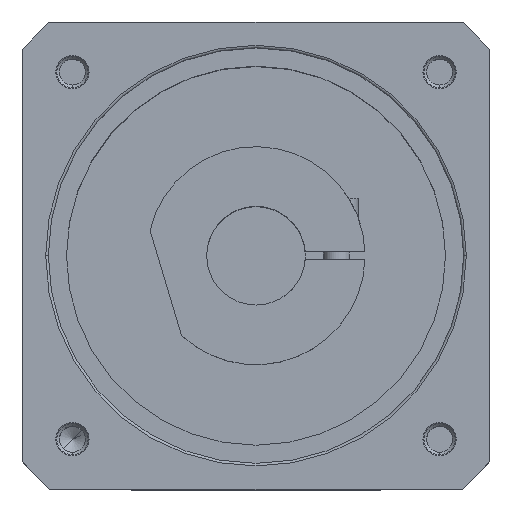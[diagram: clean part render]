
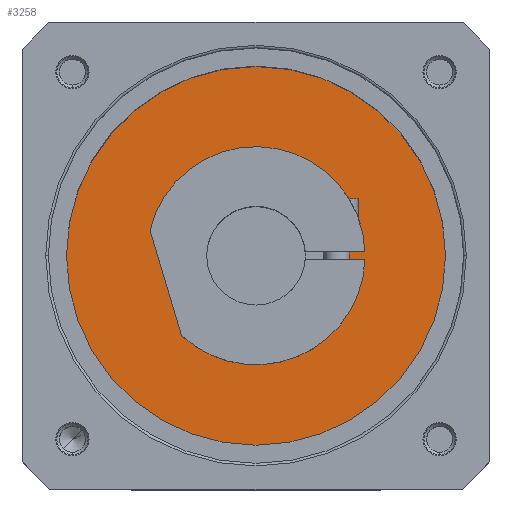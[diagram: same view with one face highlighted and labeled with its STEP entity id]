
A CAD part, top view. The second image highlights one B-rep face of the part: STEP entity #3258.
In plain terms, the highlighted planar face has unit normal (0, 0, 1).
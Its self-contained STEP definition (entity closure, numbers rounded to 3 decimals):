
#557=CARTESIAN_POINT('',(0.,0.,56.));
#558=DIRECTION('',(0.,0.,1.));
#559=DIRECTION('',(0.,-1.,0.));
#560=AXIS2_PLACEMENT_3D('',#557,#558,#559);
#562=CARTESIAN_POINT('',(0.,0.,56.));
#563=DIRECTION('',(0.,0.,1.));
#564=DIRECTION('',(0.,1.,0.));
#565=AXIS2_PLACEMENT_3D('',#562,#563,#564);
#567=DIRECTION('',(0.,-1.,0.));
#568=VECTOR('',#567,6.349);
#569=CARTESIAN_POINT('',(-29.355,41.704,56.));
#570=LINE('',#569,#568);
#571=CARTESIAN_POINT('',(0.,0.,56.));
#572=DIRECTION('',(0.,0.,1.));
#573=DIRECTION('',(-0.471,0.882,0.));
#574=AXIS2_PLACEMENT_3D('',#571,#572,#573);
#576=DIRECTION('',(-1.,0.,0.));
#577=VECTOR('',#576,48.);
#578=CARTESIAN_POINT('',(24.,45.,56.));
#579=LINE('',#578,#577);
#580=CARTESIAN_POINT('',(0.,0.,56.));
#581=DIRECTION('',(0.,0.,1.));
#582=DIRECTION('',(0.576,0.818,0.));
#583=AXIS2_PLACEMENT_3D('',#580,#581,#582);
#585=DIRECTION('',(0.,-1.,0.));
#586=VECTOR('',#585,6.349);
#587=CARTESIAN_POINT('',(29.355,41.704,56.));
#588=LINE('',#587,#586);
#589=CARTESIAN_POINT('',(35.355,29.355,56.));
#590=CARTESIAN_POINT('',(34.308,29.355,56.));
#591=CARTESIAN_POINT('',(32.215,29.916,56.));
#592=CARTESIAN_POINT('',(29.916,32.215,56.));
#593=CARTESIAN_POINT('',(29.355,34.308,56.));
#594=CARTESIAN_POINT('',(29.355,35.355,56.));
#596=DIRECTION('',(-1.,0.,0.));
#597=VECTOR('',#596,6.349);
#598=CARTESIAN_POINT('',(41.704,29.355,56.));
#599=LINE('',#598,#597);
#600=CARTESIAN_POINT('',(0.,0.,56.));
#601=DIRECTION('',(0.,0.,1.));
#602=DIRECTION('',(0.882,0.471,0.));
#603=AXIS2_PLACEMENT_3D('',#600,#601,#602);
#605=DIRECTION('',(0.,1.,0.));
#606=VECTOR('',#605,48.);
#607=CARTESIAN_POINT('',(45.,-24.,56.));
#608=LINE('',#607,#606);
#609=CARTESIAN_POINT('',(0.,0.,56.));
#610=DIRECTION('',(0.,0.,1.));
#611=DIRECTION('',(0.818,-0.576,0.));
#612=AXIS2_PLACEMENT_3D('',#609,#610,#611);
#614=DIRECTION('',(-1.,0.,0.));
#615=VECTOR('',#614,6.349);
#616=CARTESIAN_POINT('',(41.704,-29.355,56.));
#617=LINE('',#616,#615);
#618=CARTESIAN_POINT('',(29.355,-35.355,56.));
#619=CARTESIAN_POINT('',(29.355,-34.308,56.));
#620=CARTESIAN_POINT('',(29.916,-32.215,56.));
#621=CARTESIAN_POINT('',(32.215,-29.916,56.));
#622=CARTESIAN_POINT('',(34.308,-29.355,56.));
#623=CARTESIAN_POINT('',(35.355,-29.355,56.));
#625=DIRECTION('',(0.,1.,0.));
#626=VECTOR('',#625,6.349);
#627=CARTESIAN_POINT('',(29.355,-41.704,56.));
#628=LINE('',#627,#626);
#629=CARTESIAN_POINT('',(0.,0.,56.));
#630=DIRECTION('',(0.,0.,1.));
#631=DIRECTION('',(0.471,-0.882,0.));
#632=AXIS2_PLACEMENT_3D('',#629,#630,#631);
#634=DIRECTION('',(1.,0.,0.));
#635=VECTOR('',#634,48.);
#636=CARTESIAN_POINT('',(-24.,-45.,56.));
#637=LINE('',#636,#635);
#638=CARTESIAN_POINT('',(0.,0.,56.));
#639=DIRECTION('',(0.,0.,1.));
#640=DIRECTION('',(-0.576,-0.818,0.));
#641=AXIS2_PLACEMENT_3D('',#638,#639,#640);
#643=DIRECTION('',(0.,1.,0.));
#644=VECTOR('',#643,6.349);
#645=CARTESIAN_POINT('',(-29.355,-41.704,56.));
#646=LINE('',#645,#644);
#647=CARTESIAN_POINT('',(-35.355,-29.355,56.));
#648=CARTESIAN_POINT('',(-34.308,-29.355,56.));
#649=CARTESIAN_POINT('',(-32.215,-29.916,56.));
#650=CARTESIAN_POINT('',(-29.916,-32.215,56.));
#651=CARTESIAN_POINT('',(-29.355,-34.308,56.));
#652=CARTESIAN_POINT('',(-29.355,-35.355,56.));
#654=DIRECTION('',(1.,0.,0.));
#655=VECTOR('',#654,6.349);
#656=CARTESIAN_POINT('',(-41.704,-29.355,56.));
#657=LINE('',#656,#655);
#658=CARTESIAN_POINT('',(0.,0.,56.));
#659=DIRECTION('',(0.,0.,1.));
#660=DIRECTION('',(-0.882,-0.471,0.));
#661=AXIS2_PLACEMENT_3D('',#658,#659,#660);
#663=DIRECTION('',(0.,-1.,0.));
#664=VECTOR('',#663,48.);
#665=CARTESIAN_POINT('',(-45.,24.,56.));
#666=LINE('',#665,#664);
#667=CARTESIAN_POINT('',(0.,0.,56.));
#668=DIRECTION('',(0.,0.,1.));
#669=DIRECTION('',(-0.818,0.576,0.));
#670=AXIS2_PLACEMENT_3D('',#667,#668,#669);
#672=DIRECTION('',(1.,0.,0.));
#673=VECTOR('',#672,6.349);
#674=CARTESIAN_POINT('',(-41.704,29.355,56.));
#675=LINE('',#674,#673);
#676=CARTESIAN_POINT('',(-29.355,35.355,56.));
#677=CARTESIAN_POINT('',(-29.355,34.308,56.));
#678=CARTESIAN_POINT('',(-29.916,32.215,56.));
#679=CARTESIAN_POINT('',(-32.215,29.916,56.));
#680=CARTESIAN_POINT('',(-34.308,29.355,56.));
#681=CARTESIAN_POINT('',(-35.355,29.355,56.));
#2240=CARTESIAN_POINT('',(-45.,24.,56.));
#2241=CARTESIAN_POINT('',(-45.,-24.,56.));
#2242=VERTEX_POINT('',#2240);
#2243=VERTEX_POINT('',#2241);
#2244=CARTESIAN_POINT('',(-24.,-45.,56.));
#2245=CARTESIAN_POINT('',(24.,-45.,56.));
#2246=VERTEX_POINT('',#2244);
#2247=VERTEX_POINT('',#2245);
#2248=CARTESIAN_POINT('',(45.,-24.,56.));
#2249=CARTESIAN_POINT('',(45.,24.,56.));
#2250=VERTEX_POINT('',#2248);
#2251=VERTEX_POINT('',#2249);
#2252=CARTESIAN_POINT('',(24.,45.,56.));
#2253=CARTESIAN_POINT('',(-24.,45.,56.));
#2254=VERTEX_POINT('',#2252);
#2255=VERTEX_POINT('',#2253);
#2304=CARTESIAN_POINT('',(0.,-14.,56.));
#2305=CARTESIAN_POINT('',(0.,14.,56.));
#2306=VERTEX_POINT('',#2304);
#2307=VERTEX_POINT('',#2305);
#2380=CARTESIAN_POINT('',(41.704,29.355,56.));
#2381=CARTESIAN_POINT('',(35.355,29.355,56.));
#2382=VERTEX_POINT('',#2380);
#2383=VERTEX_POINT('',#2381);
#2384=CARTESIAN_POINT('',(29.355,41.704,56.));
#2385=CARTESIAN_POINT('',(29.355,35.355,56.));
#2386=VERTEX_POINT('',#2384);
#2387=VERTEX_POINT('',#2385);
#2414=CARTESIAN_POINT('',(29.355,-41.704,56.));
#2415=CARTESIAN_POINT('',(29.355,-35.355,56.));
#2416=VERTEX_POINT('',#2414);
#2417=VERTEX_POINT('',#2415);
#2418=CARTESIAN_POINT('',(41.704,-29.355,56.));
#2419=CARTESIAN_POINT('',(35.355,-29.355,56.));
#2420=VERTEX_POINT('',#2418);
#2421=VERTEX_POINT('',#2419);
#2448=CARTESIAN_POINT('',(-41.704,-29.355,56.));
#2449=CARTESIAN_POINT('',(-35.355,-29.355,56.));
#2450=VERTEX_POINT('',#2448);
#2451=VERTEX_POINT('',#2449);
#2452=CARTESIAN_POINT('',(-29.355,-41.704,56.));
#2453=CARTESIAN_POINT('',(-29.355,-35.355,56.));
#2454=VERTEX_POINT('',#2452);
#2455=VERTEX_POINT('',#2453);
#2482=CARTESIAN_POINT('',(-29.355,41.704,56.));
#2483=CARTESIAN_POINT('',(-29.355,35.355,56.));
#2484=VERTEX_POINT('',#2482);
#2485=VERTEX_POINT('',#2483);
#2486=CARTESIAN_POINT('',(-41.704,29.355,56.));
#2487=CARTESIAN_POINT('',(-35.355,29.355,56.));
#2488=VERTEX_POINT('',#2486);
#2489=VERTEX_POINT('',#2487);
#3201=CARTESIAN_POINT('',(38.,38.,56.));
#3202=DIRECTION('',(0.,0.,1.));
#3203=DIRECTION('',(1.,0.,0.));
#3204=AXIS2_PLACEMENT_3D('',#3201,#3202,#3203);
#3205=PLANE('',#3204);
#3207=ORIENTED_EDGE('',*,*,#3206,.F.);
#3209=ORIENTED_EDGE('',*,*,#3208,.F.);
#3210=ORIENTED_EDGE('',*,*,#3194,.F.);
#3211=ORIENTED_EDGE('',*,*,#3091,.F.);
#3213=ORIENTED_EDGE('',*,*,#3212,.T.);
#3215=ORIENTED_EDGE('',*,*,#3214,.F.);
#3217=ORIENTED_EDGE('',*,*,#3216,.F.);
#3218=ORIENTED_EDGE('',*,*,#3071,.F.);
#3219=ORIENTED_EDGE('',*,*,#3108,.F.);
#3221=ORIENTED_EDGE('',*,*,#3220,.F.);
#3223=ORIENTED_EDGE('',*,*,#3222,.T.);
#3225=ORIENTED_EDGE('',*,*,#3224,.F.);
#3227=ORIENTED_EDGE('',*,*,#3226,.F.);
#3229=ORIENTED_EDGE('',*,*,#3228,.F.);
#3231=ORIENTED_EDGE('',*,*,#3230,.F.);
#3233=ORIENTED_EDGE('',*,*,#3232,.F.);
#3235=ORIENTED_EDGE('',*,*,#3234,.T.);
#3237=ORIENTED_EDGE('',*,*,#3236,.F.);
#3239=ORIENTED_EDGE('',*,*,#3238,.F.);
#3241=ORIENTED_EDGE('',*,*,#3240,.F.);
#3243=ORIENTED_EDGE('',*,*,#3242,.F.);
#3245=ORIENTED_EDGE('',*,*,#3244,.F.);
#3247=ORIENTED_EDGE('',*,*,#3246,.T.);
#3249=ORIENTED_EDGE('',*,*,#3248,.F.);
#3250=EDGE_LOOP('',(#3207,#3209,#3210,#3211,#3213,#3215,#3217,#3218,#3219,#3221,
#3223,#3225,#3227,#3229,#3231,#3233,#3235,#3237,#3239,#3241,#3243,#3245,#3247,
#3249));
#3251=FACE_OUTER_BOUND('',#3250,.F.);
#3253=ORIENTED_EDGE('',*,*,#3252,.T.);
#3255=ORIENTED_EDGE('',*,*,#3254,.T.);
#3256=EDGE_LOOP('',(#3253,#3255));
#3257=FACE_BOUND('',#3256,.F.);
#3258=ADVANCED_FACE('',(#3251,#3257),#3205,.T.);
#561=CIRCLE('',#560,14.);
#566=CIRCLE('',#565,14.);
#575=CIRCLE('',#574,51.);
#584=CIRCLE('',#583,51.);
#595=B_SPLINE_CURVE_WITH_KNOTS('',3,(#589,#590,#591,#592,#593,#594),
.UNSPECIFIED.,.F.,.F.,(4,1,1,4),(0.,0.333,0.667,1.),
.UNSPECIFIED.);
#604=CIRCLE('',#603,51.);
#613=CIRCLE('',#612,51.);
#624=B_SPLINE_CURVE_WITH_KNOTS('',3,(#618,#619,#620,#621,#622,#623),
.UNSPECIFIED.,.F.,.F.,(4,1,1,4),(0.,0.333,0.667,1.),
.UNSPECIFIED.);
#633=CIRCLE('',#632,51.);
#642=CIRCLE('',#641,51.);
#653=B_SPLINE_CURVE_WITH_KNOTS('',3,(#647,#648,#649,#650,#651,#652),
.UNSPECIFIED.,.F.,.F.,(4,1,1,4),(0.,0.333,0.667,1.),
.UNSPECIFIED.);
#662=CIRCLE('',#661,51.);
#671=CIRCLE('',#670,51.);
#682=B_SPLINE_CURVE_WITH_KNOTS('',3,(#676,#677,#678,#679,#680,#681),
.UNSPECIFIED.,.F.,.F.,(4,1,1,4),(0.,0.333,0.667,1.),
.UNSPECIFIED.);
#3071=EDGE_CURVE('',#2251,#2382,#604,.T.);
#3091=EDGE_CURVE('',#2386,#2254,#584,.T.);
#3108=EDGE_CURVE('',#2250,#2251,#608,.T.);
#3194=EDGE_CURVE('',#2254,#2255,#579,.T.);
#3206=EDGE_CURVE('',#2484,#2485,#570,.T.);
#3208=EDGE_CURVE('',#2255,#2484,#575,.T.);
#3212=EDGE_CURVE('',#2386,#2387,#588,.T.);
#3214=EDGE_CURVE('',#2383,#2387,#595,.T.);
#3216=EDGE_CURVE('',#2382,#2383,#599,.T.);
#3220=EDGE_CURVE('',#2420,#2250,#613,.T.);
#3222=EDGE_CURVE('',#2420,#2421,#617,.T.);
#3224=EDGE_CURVE('',#2417,#2421,#624,.T.);
#3226=EDGE_CURVE('',#2416,#2417,#628,.T.);
#3228=EDGE_CURVE('',#2247,#2416,#633,.T.);
#3230=EDGE_CURVE('',#2246,#2247,#637,.T.);
#3232=EDGE_CURVE('',#2454,#2246,#642,.T.);
#3234=EDGE_CURVE('',#2454,#2455,#646,.T.);
#3236=EDGE_CURVE('',#2451,#2455,#653,.T.);
#3238=EDGE_CURVE('',#2450,#2451,#657,.T.);
#3240=EDGE_CURVE('',#2243,#2450,#662,.T.);
#3242=EDGE_CURVE('',#2242,#2243,#666,.T.);
#3244=EDGE_CURVE('',#2488,#2242,#671,.T.);
#3246=EDGE_CURVE('',#2488,#2489,#675,.T.);
#3248=EDGE_CURVE('',#2485,#2489,#682,.T.);
#3252=EDGE_CURVE('',#2306,#2307,#561,.T.);
#3254=EDGE_CURVE('',#2307,#2306,#566,.T.);
